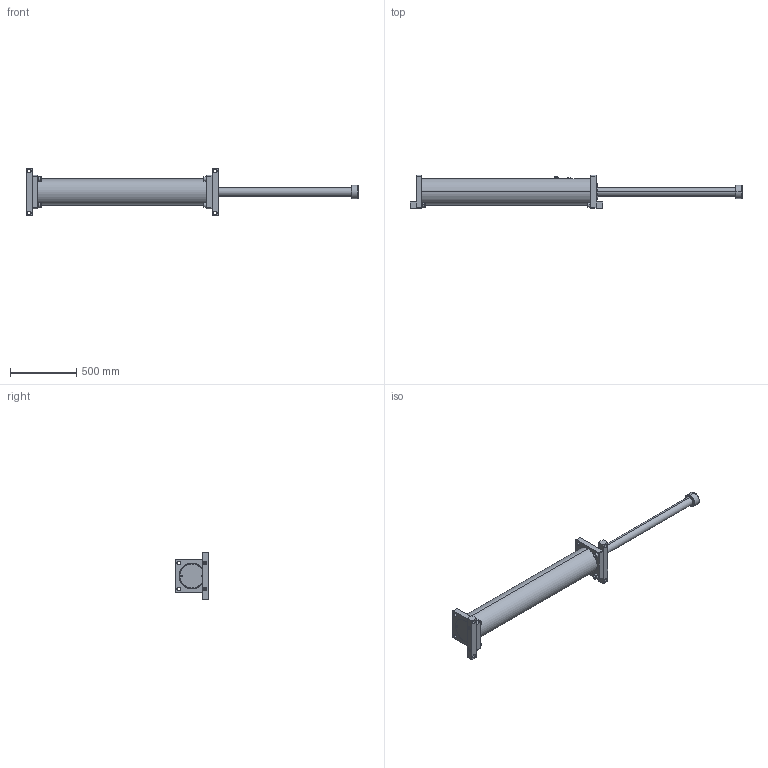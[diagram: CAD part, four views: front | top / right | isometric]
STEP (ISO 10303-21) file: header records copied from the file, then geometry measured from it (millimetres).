
FILE_DESCRIPTION (( 'STEP AP214' ), '1' );
FILE_NAME ('LDD4.0X40.STEP', '2019-01-16T08:56:25', ( 'user' ), ( 'Microsoft' ), 'SwSTEP 2.0', 'SolidWorks 2016', '' );
FILE_SCHEMA (( 'AUTOMOTIVE_DESIGN' ));
Length unit declared in the file: inch
Products named in the file (1): LDD4.0X40
Bounding box: 2504 x 251.5 x 360 mm (x, y, z)
Volume: 19972421.5 mm3; surface area: 2730833.6 mm2
Topology: 19 solids, 19 shells, 607 faces, 1342 edges, 800 vertices
Faces by surface type: cylinder 194, cone 168, plane 135, bspline 110
Entity records: 23716 total; most frequent: CARTESIAN_POINT 10224, DIRECTION 2896, ORIENTED_EDGE 2652, EDGE_CURVE 1326, AXIS2_PLACEMENT_3D 1192, VERTEX_POINT 800, EDGE_LOOP 702, CIRCLE 694
